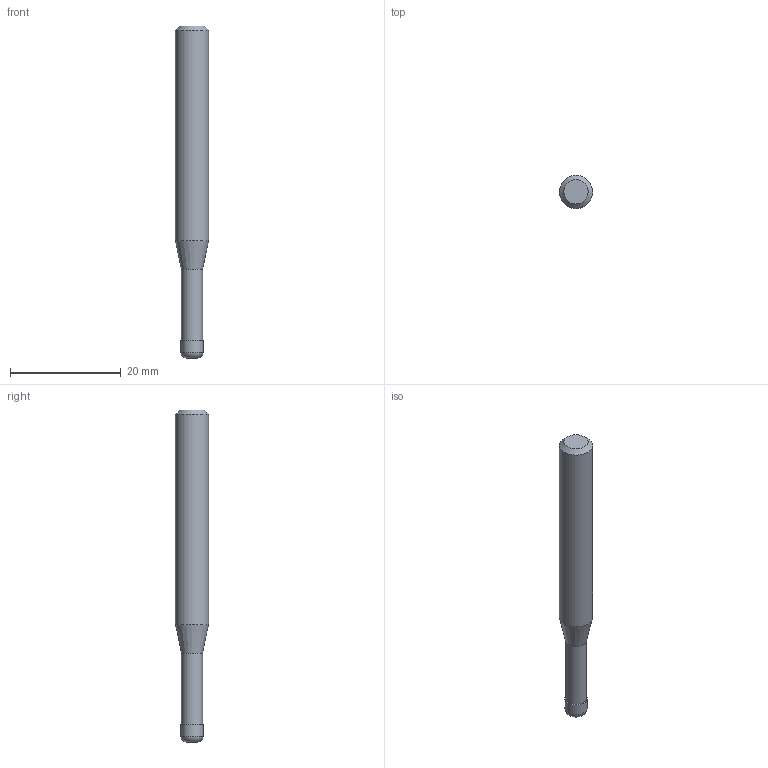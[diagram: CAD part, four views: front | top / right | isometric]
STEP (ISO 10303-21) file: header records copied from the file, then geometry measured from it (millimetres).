
FILE_DESCRIPTION((''),'2;1');
FILE_NAME('C:\Users\nsx150\AppData\Local\Temp\Mastercam 2021\3SYKECWX22\TEMP.step','2021-04-22T09:51:49',(''),(''),'STEP Write','Mastercam 2021 ... CNC Software, Inc.','');
FILE_SCHEMA(('AUTOMOTIVE_DESIGN'));
Length unit declared in the file: millimetre
Products named in the file (1): None
Bounding box: 6 x 6 x 60 mm (x, y, z)
Volume: 1374.5 mm3; surface area: 1055.5 mm2
Topology: 2 solids, 2 shells, 10 faces, 14 edges, 8 vertices
Faces by surface type: plane 4, cylinder 3, cone 2, torus 1
Full cylindrical faces by diameter (mm): 3.8 x1, 4 x1, 6 x1
Entity records: 232 total; most frequent: DIRECTION 40, CARTESIAN_POINT 28, AXIS2_PLACEMENT_3D 20, ORIENTED_EDGE 16, EDGE_LOOP 16, STYLED_ITEM 13, ADVANCED_FACE 10, FACE_BOUND 10
